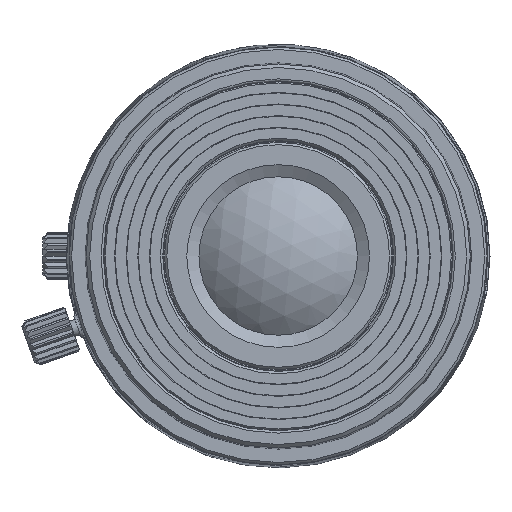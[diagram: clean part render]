
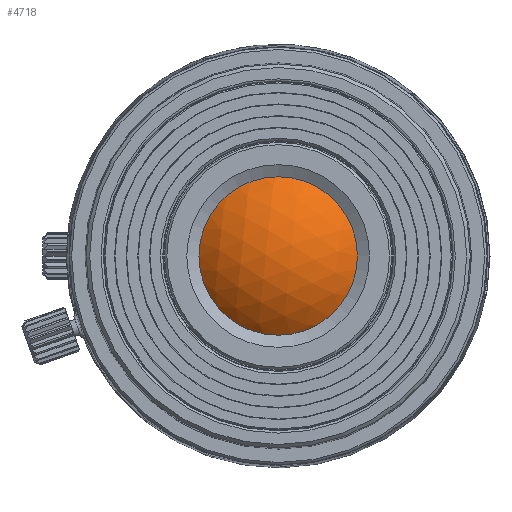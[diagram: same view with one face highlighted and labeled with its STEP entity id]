
A CAD part, left-side view. The second image highlights one B-rep face of the part: STEP entity #4718.
In plain terms, the highlighted spherical face has radius 9.972 mm.
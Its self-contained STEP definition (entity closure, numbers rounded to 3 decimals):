
#30=SPHERICAL_SURFACE('',#5230,9.972);
#801=CIRCLE('',#5231,6.8);
#1817=ORIENTED_EDGE('',*,*,#2885,.F.);
#2885=EDGE_CURVE('',#3424,#3424,#801,.T.);
#3424=VERTEX_POINT('',#8963);
#3961=EDGE_LOOP('',(#1817));
#4363=FACE_BOUND('',#3961,.T.);
#4718=ADVANCED_FACE('',(#4363),#30,.T.);
#5230=AXIS2_PLACEMENT_3D('',#8961,#6332,#6333);
#5231=AXIS2_PLACEMENT_3D('',#8962,#6334,#6335);
#6332=DIRECTION('',(0.,-0.995,-0.104));
#6333=DIRECTION('',(0.,0.104,-0.995));
#6334=DIRECTION('',(1.,0.,0.));
#6335=DIRECTION('',(0.,0.,-1.));
#8961=CARTESIAN_POINT('',(-57.228,0.,0.));
#8962=CARTESIAN_POINT('',(-64.522,0.,0.));
#8963=CARTESIAN_POINT('',(-64.522,0.,-6.8));
